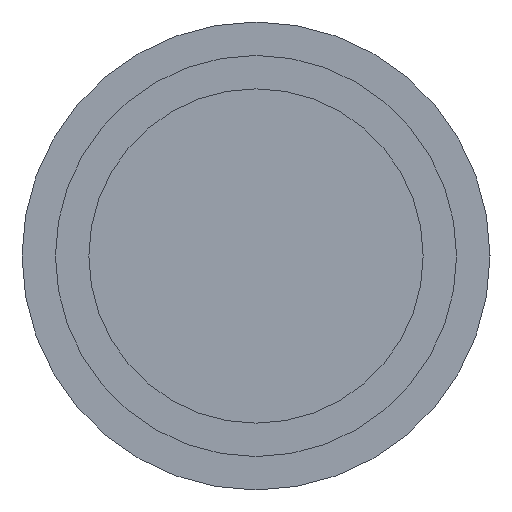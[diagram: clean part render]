
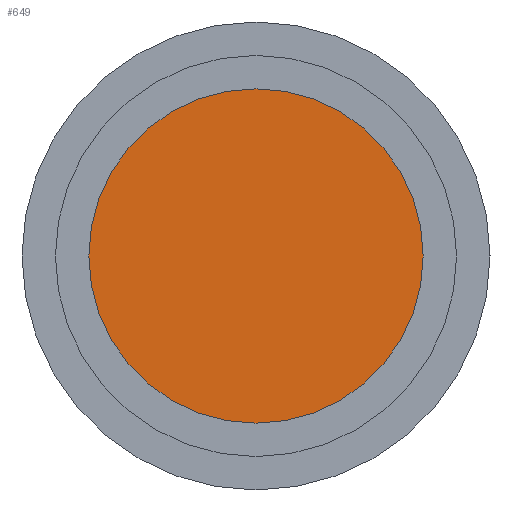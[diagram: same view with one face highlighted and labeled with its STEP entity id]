
A CAD part, left-side view. The second image highlights one B-rep face of the part: STEP entity #649.
In plain terms, the highlighted planar face has unit normal (-1, 0, 0).
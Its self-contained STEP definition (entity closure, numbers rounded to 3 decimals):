
#583 = CYLINDRICAL_SURFACE('',#584,12.5);
#584 = AXIS2_PLACEMENT_3D('',#585,#586,#587);
#585 = CARTESIAN_POINT('',(0.,0.,0.));
#586 = DIRECTION('',(-1.,-0.,-0.));
#587 = DIRECTION('',(0.,1.,0.));
#599 = VERTEX_POINT('',#600);
#600 = CARTESIAN_POINT('',(0.,12.5,0.));
#623 = EDGE_CURVE('',#599,#599,#624,.T.);
#624 = SURFACE_CURVE('',#625,(#630,#637),.PCURVE_S1.);
#625 = CIRCLE('',#626,12.5);
#626 = AXIS2_PLACEMENT_3D('',#627,#628,#629);
#627 = CARTESIAN_POINT('',(0.,0.,0.));
#628 = DIRECTION('',(1.,0.,0.));
#629 = DIRECTION('',(0.,1.,0.));
#630 = PCURVE('',#583,#631);
#631 = DEFINITIONAL_REPRESENTATION('',(#632),#636);
#632 = LINE('',#633,#634);
#633 = CARTESIAN_POINT('',(-0.,0.));
#634 = VECTOR('',#635,1.);
#635 = DIRECTION('',(-1.,0.));
#636 = ( GEOMETRIC_REPRESENTATION_CONTEXT(2) 
PARAMETRIC_REPRESENTATION_CONTEXT() REPRESENTATION_CONTEXT('2D SPACE',''
  ) );
#637 = PCURVE('',#638,#643);
#638 = PLANE('',#639);
#639 = AXIS2_PLACEMENT_3D('',#640,#641,#642);
#640 = CARTESIAN_POINT('',(0.,0.,0.));
#641 = DIRECTION('',(1.,0.,0.));
#642 = DIRECTION('',(-0.,0.,1.));
#643 = DEFINITIONAL_REPRESENTATION('',(#644),#648);
#644 = CIRCLE('',#645,12.5);
#645 = AXIS2_PLACEMENT_2D('',#646,#647);
#646 = CARTESIAN_POINT('',(0.,0.));
#647 = DIRECTION('',(0.,-1.));
#648 = ( GEOMETRIC_REPRESENTATION_CONTEXT(2) 
PARAMETRIC_REPRESENTATION_CONTEXT() REPRESENTATION_CONTEXT('2D SPACE',''
  ) );
#649 = ADVANCED_FACE('',(#650),#638,.F.);
#650 = FACE_BOUND('',#651,.F.);
#651 = EDGE_LOOP('',(#652));
#652 = ORIENTED_EDGE('',*,*,#623,.T.);
